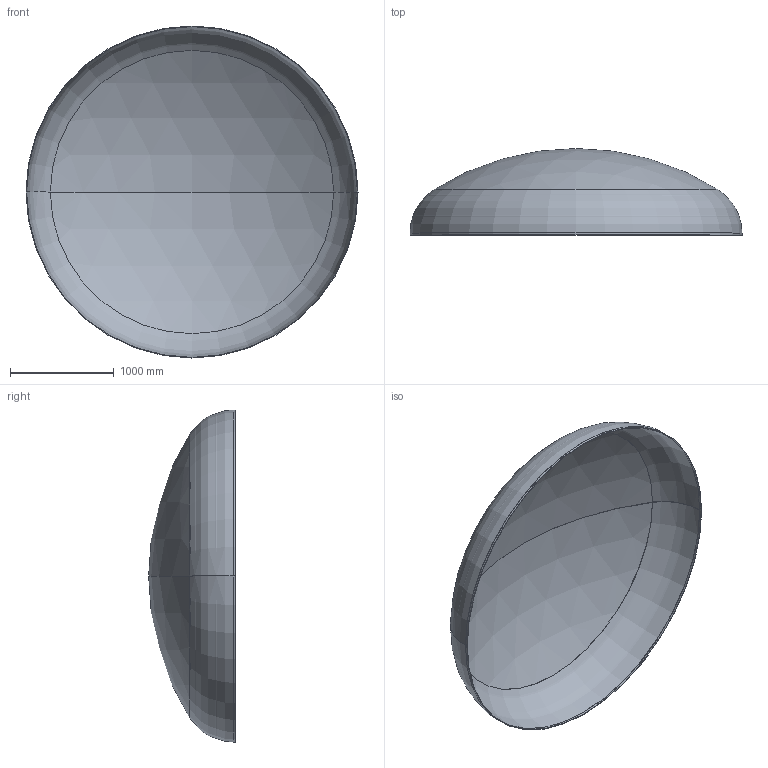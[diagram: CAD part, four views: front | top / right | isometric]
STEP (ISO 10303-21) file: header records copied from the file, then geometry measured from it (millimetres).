
FILE_DESCRIPTION (( 'STEP AP203' ), '1' );
FILE_NAME ('DIN 28013 Korbbogenform_-_Boden DIN 28013 - 3200 x 20 - I - s=6.step', '2016-07-01T18:15:28', ( '' ), ( '' ), 'SwSTEP 2.0', 'SolidWorks 2013', '' );
FILE_SCHEMA (( 'CONFIG_CONTROL_DESIGN' ));
Length unit declared in the file: millimetre
Products named in the file (1): DIN 28013 Korbbogenform_-_Boden DIN 28013 - 3200 x 20 - I - s=6
Bounding box: 3200 x 834.98 x 3200 mm (x, y, z)
Volume: 67803749.5 mm3; surface area: 22661521.3 mm2
Topology: 1 solids, 1 shells, 13 faces, 24 edges, 14 vertices
Faces by surface type: torus 4, cylinder 4, sphere 4, plane 1
Entity records: 407 total; most frequent: DIRECTION 72, CARTESIAN_POINT 52, ORIENTED_EDGE 48, AXIS2_PLACEMENT_3D 34, EDGE_CURVE 24, CIRCLE 20, EDGE_LOOP 14, VERTEX_POINT 14
